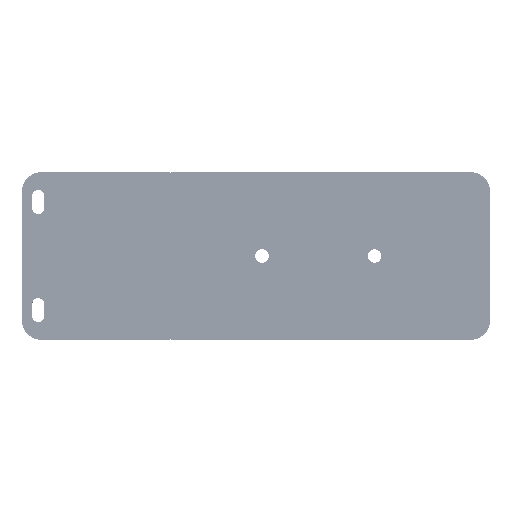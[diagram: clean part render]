
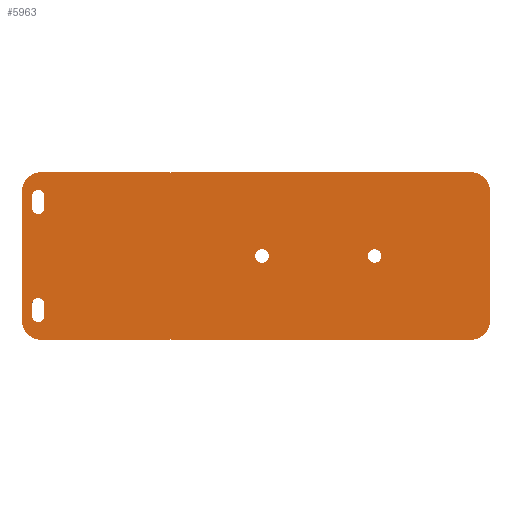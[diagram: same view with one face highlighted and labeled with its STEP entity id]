
A CAD part, top view. The second image highlights one B-rep face of the part: STEP entity #5963.
In plain terms, the highlighted planar face has unit normal (0, 0, 1).
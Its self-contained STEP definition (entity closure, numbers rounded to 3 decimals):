
#1015=FACE_BOUND('',#10725,.T.);
#1016=FACE_BOUND('',#10726,.T.);
#1017=FACE_BOUND('',#10727,.T.);
#1018=FACE_BOUND('',#10728,.T.);
#1019=FACE_BOUND('',#10729,.T.);
#4048=CIRCLE('',#37417,2.);
#4049=CIRCLE('',#37418,2.);
#4050=CIRCLE('',#37419,2.);
#4051=CIRCLE('',#37420,2.);
#4052=CIRCLE('',#37421,6.419);
#4053=CIRCLE('',#37422,6.419);
#4054=CIRCLE('',#37423,6.419);
#4055=CIRCLE('',#37424,6.419);
#4056=CIRCLE('',#37425,2.25);
#4057=CIRCLE('',#37426,2.25);
#5963=ADVANCED_FACE('',(#1015,#1016,#1017,#1018,#1019),#8103,.T.);
#8103=PLANE('',#37427);
#10725=EDGE_LOOP('',(#15404,#15405,#15406,#15407));
#10726=EDGE_LOOP('',(#15408,#15409,#15410,#15411));
#10727=EDGE_LOOP('',(#15412,#15413,#15414,#15415,#15416,#15417,#15418,#15419,
#15420,#15421,#15422,#15423,#15424,#15425,#15426,#15427));
#10728=EDGE_LOOP('',(#15428));
#10729=EDGE_LOOP('',(#15429));
#15404=ORIENTED_EDGE('',*,*,#27687,.T.);
#15405=ORIENTED_EDGE('',*,*,#27688,.T.);
#15406=ORIENTED_EDGE('',*,*,#27689,.T.);
#15407=ORIENTED_EDGE('',*,*,#27690,.T.);
#15408=ORIENTED_EDGE('',*,*,#27691,.T.);
#15409=ORIENTED_EDGE('',*,*,#27692,.T.);
#15410=ORIENTED_EDGE('',*,*,#27693,.T.);
#15411=ORIENTED_EDGE('',*,*,#27694,.T.);
#15412=ORIENTED_EDGE('',*,*,#27695,.F.);
#15413=ORIENTED_EDGE('',*,*,#27696,.F.);
#15414=ORIENTED_EDGE('',*,*,#27697,.F.);
#15415=ORIENTED_EDGE('',*,*,#27698,.T.);
#15416=ORIENTED_EDGE('',*,*,#27699,.F.);
#15417=ORIENTED_EDGE('',*,*,#27700,.T.);
#15418=ORIENTED_EDGE('',*,*,#27701,.F.);
#15419=ORIENTED_EDGE('',*,*,#27702,.F.);
#15420=ORIENTED_EDGE('',*,*,#27703,.F.);
#15421=ORIENTED_EDGE('',*,*,#27704,.T.);
#15422=ORIENTED_EDGE('',*,*,#27705,.F.);
#15423=ORIENTED_EDGE('',*,*,#27706,.T.);
#15424=ORIENTED_EDGE('',*,*,#27707,.F.);
#15425=ORIENTED_EDGE('',*,*,#27708,.T.);
#15426=ORIENTED_EDGE('',*,*,#27709,.F.);
#15427=ORIENTED_EDGE('',*,*,#27710,.T.);
#15428=ORIENTED_EDGE('',*,*,#27711,.F.);
#15429=ORIENTED_EDGE('',*,*,#27712,.F.);
#23880=VERTEX_POINT('',#53312);
#23881=VERTEX_POINT('',#53313);
#23882=VERTEX_POINT('',#53315);
#23883=VERTEX_POINT('',#53317);
#23884=VERTEX_POINT('',#53320);
#23885=VERTEX_POINT('',#53321);
#23886=VERTEX_POINT('',#53323);
#23887=VERTEX_POINT('',#53325);
#23888=VERTEX_POINT('',#53328);
#23889=VERTEX_POINT('',#53329);
#23890=VERTEX_POINT('',#53331);
#23891=VERTEX_POINT('',#53333);
#23892=VERTEX_POINT('',#53335);
#23893=VERTEX_POINT('',#53337);
#23894=VERTEX_POINT('',#53339);
#23895=VERTEX_POINT('',#53341);
#23896=VERTEX_POINT('',#53343);
#23897=VERTEX_POINT('',#53345);
#23898=VERTEX_POINT('',#53347);
#23899=VERTEX_POINT('',#53349);
#23900=VERTEX_POINT('',#53351);
#23901=VERTEX_POINT('',#53353);
#23902=VERTEX_POINT('',#53355);
#23903=VERTEX_POINT('',#53357);
#23904=VERTEX_POINT('',#53360);
#23905=VERTEX_POINT('',#53362);
#27687=EDGE_CURVE('',#23880,#23881,#32257,.T.);
#27688=EDGE_CURVE('',#23881,#23882,#4048,.T.);
#27689=EDGE_CURVE('',#23882,#23883,#32258,.T.);
#27690=EDGE_CURVE('',#23883,#23880,#4049,.T.);
#27691=EDGE_CURVE('',#23884,#23885,#32259,.T.);
#27692=EDGE_CURVE('',#23885,#23886,#4050,.T.);
#27693=EDGE_CURVE('',#23886,#23887,#32260,.T.);
#27694=EDGE_CURVE('',#23887,#23884,#4051,.T.);
#27695=EDGE_CURVE('',#23888,#23889,#32261,.T.);
#27696=EDGE_CURVE('',#23890,#23888,#32262,.T.);
#27697=EDGE_CURVE('',#23891,#23890,#32263,.T.);
#27698=EDGE_CURVE('',#23891,#23892,#4052,.T.);
#27699=EDGE_CURVE('',#23893,#23892,#32264,.T.);
#27700=EDGE_CURVE('',#23893,#23894,#4053,.T.);
#27701=EDGE_CURVE('',#23895,#23894,#32265,.T.);
#27702=EDGE_CURVE('',#23896,#23895,#32266,.T.);
#27703=EDGE_CURVE('',#23897,#23896,#32267,.T.);
#27704=EDGE_CURVE('',#23897,#23898,#32268,.T.);
#27705=EDGE_CURVE('',#23899,#23898,#32269,.T.);
#27706=EDGE_CURVE('',#23899,#23900,#4054,.T.);
#27707=EDGE_CURVE('',#23901,#23900,#32270,.T.);
#27708=EDGE_CURVE('',#23901,#23902,#4055,.T.);
#27709=EDGE_CURVE('',#23903,#23902,#32271,.T.);
#27710=EDGE_CURVE('',#23903,#23889,#32272,.T.);
#27711=EDGE_CURVE('',#23904,#23904,#4056,.T.);
#27712=EDGE_CURVE('',#23905,#23905,#4057,.T.);
#32257=LINE('',#53311,#34861);
#32258=LINE('',#53316,#34862);
#32259=LINE('',#53319,#34863);
#32260=LINE('',#53324,#34864);
#32261=LINE('',#53327,#34865);
#32262=LINE('',#53330,#34866);
#32263=LINE('',#53332,#34867);
#32264=LINE('',#53336,#34868);
#32265=LINE('',#53340,#34869);
#32266=LINE('',#53342,#34870);
#32267=LINE('',#53344,#34871);
#32268=LINE('',#53346,#34872);
#32269=LINE('',#53348,#34873);
#32270=LINE('',#53352,#34874);
#32271=LINE('',#53356,#34875);
#32272=LINE('',#53358,#34876);
#34861=VECTOR('',#42600,1.);
#34862=VECTOR('',#42603,1.);
#34863=VECTOR('',#42606,1.);
#34864=VECTOR('',#42609,1.);
#34865=VECTOR('',#42612,1.);
#34866=VECTOR('',#42613,1.);
#34867=VECTOR('',#42614,1.);
#34868=VECTOR('',#42617,1.);
#34869=VECTOR('',#42620,1.);
#34870=VECTOR('',#42621,1.);
#34871=VECTOR('',#42622,1.);
#34872=VECTOR('',#42623,1.);
#34873=VECTOR('',#42624,1.);
#34874=VECTOR('',#42627,1.);
#34875=VECTOR('',#42630,1.);
#34876=VECTOR('',#42631,1.);
#37417=AXIS2_PLACEMENT_3D('',#53314,#42601,#42602);
#37418=AXIS2_PLACEMENT_3D('',#53318,#42604,#42605);
#37419=AXIS2_PLACEMENT_3D('',#53322,#42607,#42608);
#37420=AXIS2_PLACEMENT_3D('',#53326,#42610,#42611);
#37421=AXIS2_PLACEMENT_3D('',#53334,#42615,#42616);
#37422=AXIS2_PLACEMENT_3D('',#53338,#42618,#42619);
#37423=AXIS2_PLACEMENT_3D('',#53350,#42625,#42626);
#37424=AXIS2_PLACEMENT_3D('',#53354,#42628,#42629);
#37425=AXIS2_PLACEMENT_3D('',#53359,#42632,#42633);
#37426=AXIS2_PLACEMENT_3D('',#53361,#42634,#42635);
#37427=AXIS2_PLACEMENT_3D('',#53363,#42636,#42637);
#42600=DIRECTION('',(0.,1.,0.));
#42601=DIRECTION('',(0.,0.,-1.));
#42602=DIRECTION('',(0.,1.,0.));
#42603=DIRECTION('',(0.,-1.,0.));
#42604=DIRECTION('',(0.,0.,-1.));
#42605=DIRECTION('',(0.,1.,0.));
#42606=DIRECTION('',(0.,1.,0.));
#42607=DIRECTION('',(0.,0.,-1.));
#42608=DIRECTION('',(0.,1.,0.));
#42609=DIRECTION('',(0.,-1.,0.));
#42610=DIRECTION('',(0.,0.,-1.));
#42611=DIRECTION('',(0.,1.,0.));
#42612=DIRECTION('',(-1.,0.,0.));
#42613=DIRECTION('',(0.,1.,0.));
#42614=DIRECTION('',(-1.,0.,0.));
#42615=DIRECTION('',(0.,0.,1.));
#42616=DIRECTION('',(1.,0.,0.));
#42617=DIRECTION('',(0.,-1.,0.));
#42618=DIRECTION('',(0.,0.,1.));
#42619=DIRECTION('',(1.,0.,0.));
#42620=DIRECTION('',(1.,0.,0.));
#42621=DIRECTION('',(0.,1.,0.));
#42622=DIRECTION('',(1.,0.,0.));
#42623=DIRECTION('',(0.,1.,0.));
#42624=DIRECTION('',(1.,0.,0.));
#42625=DIRECTION('',(0.,0.,1.));
#42626=DIRECTION('',(1.,0.,0.));
#42627=DIRECTION('',(0.,1.,0.));
#42628=DIRECTION('',(0.,0.,1.));
#42629=DIRECTION('',(1.,0.,0.));
#42630=DIRECTION('',(-1.,0.,0.));
#42631=DIRECTION('',(0.,1.,0.));
#42632=DIRECTION('',(0.,0.,1.));
#42633=DIRECTION('',(1.,0.,0.));
#42634=DIRECTION('',(0.,0.,1.));
#42635=DIRECTION('',(1.,0.,0.));
#42636=DIRECTION('',(0.,0.,1.));
#42637=DIRECTION('',(1.,0.,0.));
#53311=CARTESIAN_POINT('',(3.,43.5,16.));
#53312=CARTESIAN_POINT('',(3.,43.5,16.));
#53313=CARTESIAN_POINT('',(3.,47.5,16.));
#53314=CARTESIAN_POINT('',(5.,47.5,16.));
#53315=CARTESIAN_POINT('',(7.,47.5,16.));
#53316=CARTESIAN_POINT('',(7.,47.5,16.));
#53317=CARTESIAN_POINT('',(7.,43.5,16.));
#53318=CARTESIAN_POINT('',(5.,43.5,16.));
#53319=CARTESIAN_POINT('',(3.,7.5,16.));
#53320=CARTESIAN_POINT('',(3.,7.5,16.));
#53321=CARTESIAN_POINT('',(3.,11.5,16.));
#53322=CARTESIAN_POINT('',(5.,11.5,16.));
#53323=CARTESIAN_POINT('',(7.,11.5,16.));
#53324=CARTESIAN_POINT('',(7.,11.5,16.));
#53325=CARTESIAN_POINT('',(7.,7.5,16.));
#53326=CARTESIAN_POINT('',(5.,7.5,16.));
#53327=CARTESIAN_POINT('',(101.875,-0.119,16.));
#53328=CARTESIAN_POINT('',(49.25,-0.119,16.));
#53329=CARTESIAN_POINT('',(48.75,-0.119,16.));
#53330=CARTESIAN_POINT('',(49.25,0.3,16.));
#53331=CARTESIAN_POINT('',(49.25,-0.419,16.));
#53332=CARTESIAN_POINT('',(0.,-0.419,16.));
#53333=CARTESIAN_POINT('',(149.,-0.419,16.));
#53334=CARTESIAN_POINT('',(149.,6.,16.));
#53335=CARTESIAN_POINT('',(155.419,6.,16.));
#53336=CARTESIAN_POINT('',(155.419,0.,16.));
#53337=CARTESIAN_POINT('',(155.419,49.,16.));
#53338=CARTESIAN_POINT('',(149.,49.,16.));
#53339=CARTESIAN_POINT('',(149.,55.419,16.));
#53340=CARTESIAN_POINT('',(0.,55.419,16.));
#53341=CARTESIAN_POINT('',(49.25,55.419,16.));
#53342=CARTESIAN_POINT('',(49.25,54.7,16.));
#53343=CARTESIAN_POINT('',(49.25,55.119,16.));
#53344=CARTESIAN_POINT('',(101.875,55.119,16.));
#53345=CARTESIAN_POINT('',(48.75,55.119,16.));
#53346=CARTESIAN_POINT('',(48.75,54.7,16.));
#53347=CARTESIAN_POINT('',(48.75,55.419,16.));
#53348=CARTESIAN_POINT('',(0.,55.419,16.));
#53349=CARTESIAN_POINT('',(6.,55.419,16.));
#53350=CARTESIAN_POINT('',(6.,49.,16.));
#53351=CARTESIAN_POINT('',(-0.419,49.,16.));
#53352=CARTESIAN_POINT('',(-0.419,0.,16.));
#53353=CARTESIAN_POINT('',(-0.419,6.,16.));
#53354=CARTESIAN_POINT('',(6.,6.,16.));
#53355=CARTESIAN_POINT('',(6.,-0.419,16.));
#53356=CARTESIAN_POINT('',(0.,-0.419,16.));
#53357=CARTESIAN_POINT('',(48.75,-0.419,16.));
#53358=CARTESIAN_POINT('',(48.75,0.3,16.));
#53359=CARTESIAN_POINT('',(117.,27.5,16.));
#53360=CARTESIAN_POINT('',(119.25,27.5,16.));
#53361=CARTESIAN_POINT('',(79.5,27.5,16.));
#53362=CARTESIAN_POINT('',(81.75,27.5,16.));
#53363=CARTESIAN_POINT('',(0.,0.,16.));
